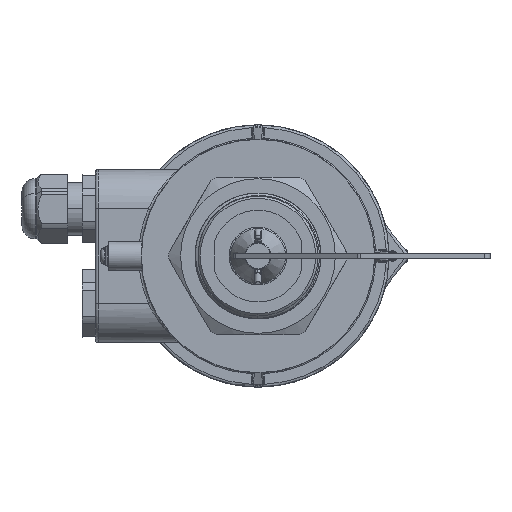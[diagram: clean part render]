
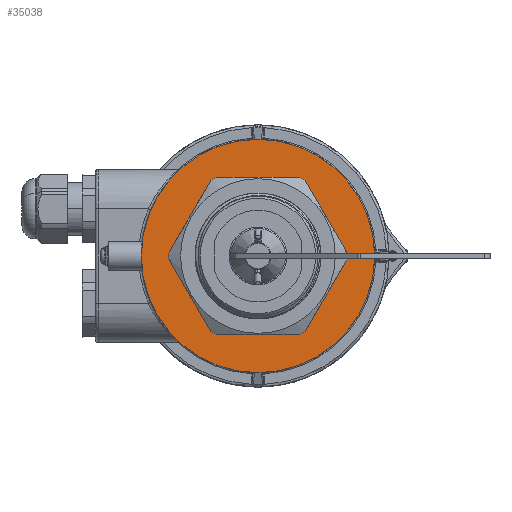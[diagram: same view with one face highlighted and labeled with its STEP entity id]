
A CAD part, front view. The second image highlights one B-rep face of the part: STEP entity #35038.
In plain terms, the highlighted planar face has unit normal (0, -1, 0).
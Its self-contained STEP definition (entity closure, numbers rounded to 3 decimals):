
#1247 = PLANE ( 'NONE',  #29865 ) ;
#2779 = ORIENTED_EDGE ( 'NONE', *, *, #15171, .T. ) ;
#3799 = EDGE_LOOP ( 'NONE', ( #11070, #39343 ) ) ;
#5011 = DIRECTION ( 'NONE',  ( 0., 1., 0. ) ) ;
#6363 = CARTESIAN_POINT ( 'NONE',  ( 0., 281.2, 0. ) ) ;
#6723 = AXIS2_PLACEMENT_3D ( 'NONE', #6363, #19514, #32631 ) ;
#7008 = DIRECTION ( 'NONE',  ( 0., 0., 1. ) ) ;
#7352 = CIRCLE ( 'NONE', #31449, 44.5 ) ;
#7493 = VERTEX_POINT ( 'NONE', #16035 ) ;
#7687 = CIRCLE ( 'NONE', #31778, 18. ) ;
#9386 = EDGE_CURVE ( 'NONE', #7493, #20784, #25317, .T. ) ;
#11070 = ORIENTED_EDGE ( 'NONE', *, *, #9386, .F. ) ;
#11477 = CARTESIAN_POINT ( 'NONE',  ( 0., 281.2, -44.5 ) ) ;
#11842 = DIRECTION ( 'NONE',  ( 0., 0., 1. ) ) ;
#14419 = CARTESIAN_POINT ( 'NONE',  ( 44.5, 281.2, 0. ) ) ;
#14935 = VERTEX_POINT ( 'NONE', #23773 ) ;
#15171 = EDGE_CURVE ( 'NONE', #42296, #14935, #7687, .T. ) ;
#15859 = CIRCLE ( 'NONE', #39964, 18. ) ;
#16035 = CARTESIAN_POINT ( 'NONE',  ( 0., 281.2, 44.5 ) ) ;
#17645 = FACE_OUTER_BOUND ( 'NONE', #3799, .T. ) ;
#18158 = DIRECTION ( 'NONE',  ( 0., 0., 1. ) ) ;
#19514 = DIRECTION ( 'NONE',  ( 0., 1., 0. ) ) ;
#20784 = VERTEX_POINT ( 'NONE', #11477 ) ;
#23387 = CARTESIAN_POINT ( 'NONE',  ( 0., 281.2, 0. ) ) ;
#23773 = CARTESIAN_POINT ( 'NONE',  ( 0., 281.2, 18. ) ) ;
#23842 = CARTESIAN_POINT ( 'NONE',  ( 0., 281.2, -18. ) ) ;
#25317 = CIRCLE ( 'NONE', #6723, 44.5 ) ;
#27408 = EDGE_CURVE ( 'NONE', #14935, #42296, #15859, .T. ) ;
#27559 = DIRECTION ( 'NONE',  ( 0., 1., 0. ) ) ;
#28217 = CARTESIAN_POINT ( 'NONE',  ( 0., 281.2, 0. ) ) ;
#29865 = AXIS2_PLACEMENT_3D ( 'NONE', #14419, #27559, #40729 ) ;
#30786 = FACE_BOUND ( 'NONE', #41199, .T. ) ;
#31449 = AXIS2_PLACEMENT_3D ( 'NONE', #28217, #41386, #11842 ) ;
#31778 = AXIS2_PLACEMENT_3D ( 'NONE', #34553, #5011, #18158 ) ;
#32631 = DIRECTION ( 'NONE',  ( 0., 0., 1. ) ) ;
#34245 = ORIENTED_EDGE ( 'NONE', *, *, #27408, .T. ) ;
#34553 = CARTESIAN_POINT ( 'NONE',  ( 0., 281.2, 0. ) ) ;
#35038 = ADVANCED_FACE ( 'NONE', ( #17645, #30786 ), #1247, .F. ) ;
#36550 = DIRECTION ( 'NONE',  ( 0., 1., 0. ) ) ;
#38142 = EDGE_CURVE ( 'NONE', #20784, #7493, #7352, .T. ) ;
#39343 = ORIENTED_EDGE ( 'NONE', *, *, #38142, .F. ) ;
#39964 = AXIS2_PLACEMENT_3D ( 'NONE', #23387, #36550, #7008 ) ;
#40729 = DIRECTION ( 'NONE',  ( 0., 0., 1. ) ) ;
#41199 = EDGE_LOOP ( 'NONE', ( #34245, #2779 ) ) ;
#41386 = DIRECTION ( 'NONE',  ( 0., 1., 0. ) ) ;
#42296 = VERTEX_POINT ( 'NONE', #23842 ) ;
